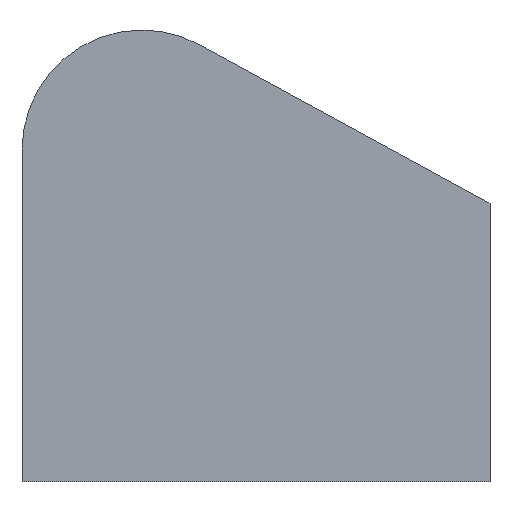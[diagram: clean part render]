
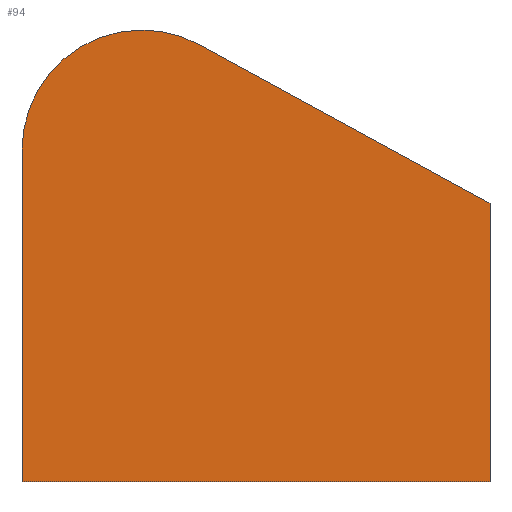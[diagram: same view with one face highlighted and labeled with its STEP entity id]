
A CAD part, top view. The second image highlights one B-rep face of the part: STEP entity #94.
In plain terms, the highlighted planar face has unit normal (0, 0, 1).
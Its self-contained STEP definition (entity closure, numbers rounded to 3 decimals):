
#94=ADVANCED_FACE('',(#149),#151,.T.);
#149=FACE_BOUND('',#150,.T.);
#150=EDGE_LOOP('',(#187,#188,#189,#190,#191));
#151=PLANE('',#152);
#152=AXIS2_PLACEMENT_3D('',#153,#154,#155);
#153=CARTESIAN_POINT('',(0.,0.,0.8));
#154=DIRECTION('',(0.,0.,1.));
#155=DIRECTION('',(1.,0.,0.));
#187=ORIENTED_EDGE('',*,*,#205,.T.);
#188=ORIENTED_EDGE('',*,*,#203,.T.);
#189=ORIENTED_EDGE('',*,*,#211,.T.);
#190=ORIENTED_EDGE('',*,*,#212,.T.);
#191=ORIENTED_EDGE('',*,*,#213,.T.);
#203=EDGE_CURVE('',#215,#220,#222,.T.);
#205=EDGE_CURVE('',#225,#215,#226,.F.);
#211=EDGE_CURVE('',#220,#233,#235,.T.);
#212=EDGE_CURVE('',#233,#236,#237,.T.);
#213=EDGE_CURVE('',#236,#225,#238,.F.);
#215=VERTEX_POINT('',#240);
#220=VERTEX_POINT('',#249);
#222=LINE('',#253,#254);
#225=VERTEX_POINT('',#260);
#226=LINE('',#261,#262);
#233=VERTEX_POINT('',#279);
#235=CIRCLE('',#283,40.);
#236=VERTEX_POINT('',#287);
#237=LINE('',#288,#289);
#238=LINE('',#291,#292);
#240=CARTESIAN_POINT('',(-139.023,94.883,0.8));
#249=CARTESIAN_POINT('',(-235.836,147.727,0.8));
#253=CARTESIAN_POINT('',(-139.023,94.883,0.8));
#254=VECTOR('',#255,1.);
#255=DIRECTION('',(-0.878,0.479,0.));
#260=CARTESIAN_POINT('',(-139.023,2.,0.8));
#261=CARTESIAN_POINT('',(-139.023,94.883,0.8));
#262=VECTOR('',#263,1.);
#263=DIRECTION('',(0.,-1.,0.));
#279=CARTESIAN_POINT('',(-295.,112.617,0.8));
#283=AXIS2_PLACEMENT_3D('',#284,#285,#286);
#284=CARTESIAN_POINT('',(-255.,112.617,0.8));
#285=DIRECTION('',(0.,0.,1.));
#286=DIRECTION('',(0.479,0.878,0.));
#287=CARTESIAN_POINT('',(-295.,2.,0.8));
#288=CARTESIAN_POINT('',(-295.,112.617,0.8));
#289=VECTOR('',#290,1.);
#290=DIRECTION('',(0.,-1.,0.));
#291=CARTESIAN_POINT('',(-139.023,2.,0.8));
#292=VECTOR('',#293,1.);
#293=DIRECTION('',(-1.,0.,0.));
